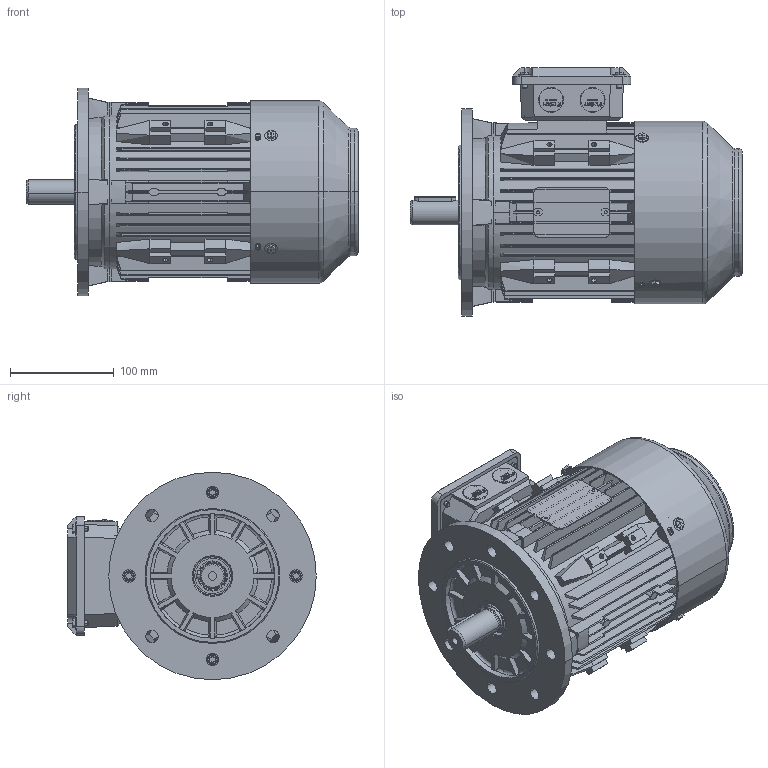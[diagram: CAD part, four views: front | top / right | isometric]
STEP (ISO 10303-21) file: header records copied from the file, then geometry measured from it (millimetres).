
FILE_DESCRIPTION (( 'STEP AP214' ), '1' );
FILE_NAME ('BCT4075.09A605.11.step', '2020-04-23T14:50:16', ( '' ), ( '' ), 'SwSTEP 2.0', 'SolidWorks 2019', '' );
FILE_SCHEMA (( 'AUTOMOTIVE_DESIGN' ));
Length unit declared in the file: millimetre
Products named in the file (1): BCT4075.09A605.11
Bounding box: 320 x 239.5 x 200 mm (x, y, z)
Volume: 1963399.8 mm3; surface area: 786900.6 mm2
Topology: 45 solids, 46 shells, 3056 faces, 8128 edges, 5286 vertices
Faces by surface type: plane 1533, cylinder 988, cone 236, bspline 165, torus 134
Entity records: 113263 total; most frequent: CARTESIAN_POINT 36757, ORIENTED_EDGE 16212, DIRECTION 15334, EDGE_CURVE 8106, AXIS2_PLACEMENT_3D 5371, VERTEX_POINT 5286, LINE 4592, VECTOR 4592
